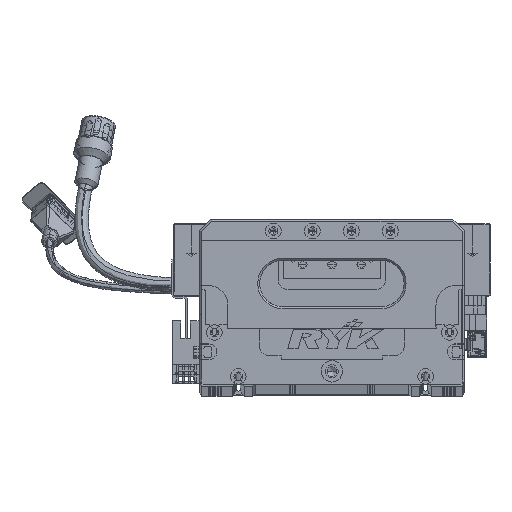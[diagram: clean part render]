
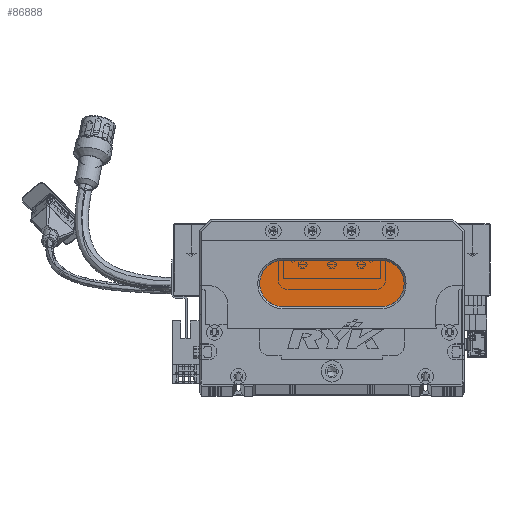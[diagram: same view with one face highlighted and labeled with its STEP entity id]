
A CAD part, top view. The second image highlights one B-rep face of the part: STEP entity #86888.
In plain terms, the highlighted planar face has unit normal (0, 0, 1) as drawn and (0, 0, -1) by its records, which use the part's own axes.
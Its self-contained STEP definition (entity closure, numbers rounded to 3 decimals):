
#3523 = EDGE_CURVE ( 'NONE', #64623, #48696, #62247, .T. ) ;
#8053 = VECTOR ( 'NONE', #96636, 1000. ) ;
#8383 = CARTESIAN_POINT ( 'NONE',  ( 43., 52., 13. ) ) ;
#9646 = ORIENTED_EDGE ( 'NONE', *, *, #55935, .T. ) ;
#14164 = ORIENTED_EDGE ( 'NONE', *, *, #127113, .T. ) ;
#15015 = CARTESIAN_POINT ( 'NONE',  ( 93., 52., 13. ) ) ;
#16248 = CARTESIAN_POINT ( 'NONE',  ( 93., 40., 13. ) ) ;
#18075 = CARTESIAN_POINT ( 'NONE',  ( 43., 40., 13. ) ) ;
#33050 = ORIENTED_EDGE ( 'NONE', *, *, #82901, .T. ) ;
#33253 = VERTEX_POINT ( 'NONE', #112049 ) ;
#34885 = DIRECTION ( 'NONE',  ( 0., 0., -1. ) ) ;
#35352 = PLANE ( 'NONE',  #72214 ) ;
#43506 = LINE ( 'NONE', #62119, #8053 ) ;
#44805 = FACE_OUTER_BOUND ( 'NONE', #123649, .T. ) ;
#45960 = ORIENTED_EDGE ( 'NONE', *, *, #3523, .T. ) ;
#48696 = VERTEX_POINT ( 'NONE', #18075 ) ;
#55935 = EDGE_CURVE ( 'NONE', #33253, #64623, #112114, .T. ) ;
#62119 = CARTESIAN_POINT ( 'NONE',  ( 93., 64., 13. ) ) ;
#62247 = LINE ( 'NONE', #108792, #84168 ) ;
#64623 = VERTEX_POINT ( 'NONE', #16248 ) ;
#65841 = DIRECTION ( 'NONE',  ( -1., 0., 0. ) ) ;
#66199 = DIRECTION ( 'NONE',  ( 0., 0., -1. ) ) ;
#69538 = VERTEX_POINT ( 'NONE', #123552 ) ;
#71344 = CIRCLE ( 'NONE', #84609, 12. ) ;
#72214 = AXIS2_PLACEMENT_3D ( 'NONE', #15015, #34885, #101436 ) ;
#74604 = VERTEX_POINT ( 'NONE', #110800 ) ;
#77078 = DIRECTION ( 'NONE',  ( -1., 0., 0. ) ) ;
#78981 = CARTESIAN_POINT ( 'NONE',  ( 93., 52., 13. ) ) ;
#82901 = EDGE_CURVE ( 'NONE', #74604, #69538, #113368, .T. ) ;
#84168 = VECTOR ( 'NONE', #88383, 1000. ) ;
#84609 = AXIS2_PLACEMENT_3D ( 'NONE', #8383, #117904, #65841 ) ;
#86888 = ADVANCED_FACE ( 'NONE', ( #44805 ), #35352, .T. ) ;
#88383 = DIRECTION ( 'NONE',  ( -1., 0., 0. ) ) ;
#88401 = CARTESIAN_POINT ( 'NONE',  ( 43., 52., 13. ) ) ;
#96636 = DIRECTION ( 'NONE',  ( 1., 0., 0. ) ) ;
#101436 = DIRECTION ( 'NONE',  ( -1., 0., 0. ) ) ;
#103623 = EDGE_CURVE ( 'NONE', #48696, #74604, #71344, .T. ) ;
#104571 = AXIS2_PLACEMENT_3D ( 'NONE', #88401, #66199, #77078 ) ;
#108792 = CARTESIAN_POINT ( 'NONE',  ( 93., 40., 13. ) ) ;
#110800 = CARTESIAN_POINT ( 'NONE',  ( 31., 52., 13. ) ) ;
#111641 = DIRECTION ( 'NONE',  ( 0., 0., -1. ) ) ;
#112049 = CARTESIAN_POINT ( 'NONE',  ( 93., 64., 13. ) ) ;
#112114 = CIRCLE ( 'NONE', #114042, 12. ) ;
#113368 = CIRCLE ( 'NONE', #104571, 12. ) ;
#114042 = AXIS2_PLACEMENT_3D ( 'NONE', #78981, #111641, #121575 ) ;
#117904 = DIRECTION ( 'NONE',  ( 0., 0., -1. ) ) ;
#121575 = DIRECTION ( 'NONE',  ( -1., 0., 0. ) ) ;
#123552 = CARTESIAN_POINT ( 'NONE',  ( 43., 64., 13. ) ) ;
#123649 = EDGE_LOOP ( 'NONE', ( #9646, #45960, #124443, #33050, #14164 ) ) ;
#124443 = ORIENTED_EDGE ( 'NONE', *, *, #103623, .T. ) ;
#127113 = EDGE_CURVE ( 'NONE', #69538, #33253, #43506, .T. ) ;
